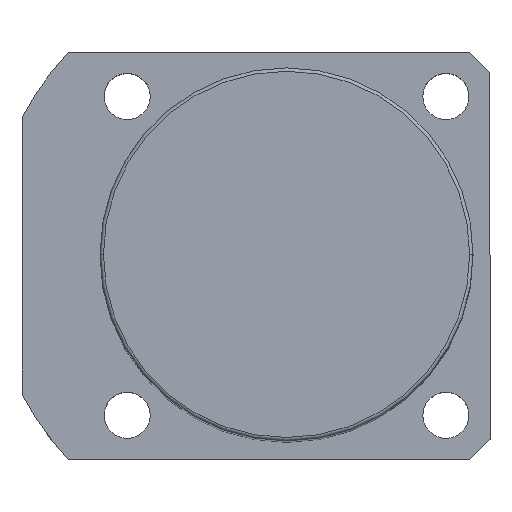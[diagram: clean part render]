
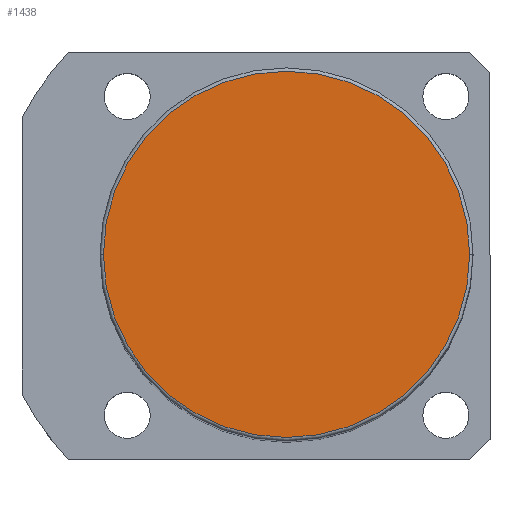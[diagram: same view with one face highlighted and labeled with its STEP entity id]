
A CAD part, top view. The second image highlights one B-rep face of the part: STEP entity #1438.
In plain terms, the highlighted planar face has unit normal (0, 0, 1).
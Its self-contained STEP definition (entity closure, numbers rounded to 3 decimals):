
#83 = AXIS2_PLACEMENT_3D ( 'NONE', #1164, #1929, #269 ) ;
#195 = EDGE_CURVE ( 'NONE', #1118, #1169, #661, .T. ) ;
#269 = DIRECTION ( 'NONE',  ( 1., 0., 0. ) ) ;
#293 = FACE_OUTER_BOUND ( 'NONE', #1752, .T. ) ;
#357 = CIRCLE ( 'NONE', #83, 27. ) ;
#551 = DIRECTION ( 'NONE',  ( 0., 0., 1. ) ) ;
#661 = CIRCLE ( 'NONE', #1336, 27. ) ;
#742 = CARTESIAN_POINT ( 'NONE',  ( 0., 0., 136. ) ) ;
#758 = EDGE_CURVE ( 'NONE', #1169, #1118, #357, .T. ) ;
#767 = AXIS2_PLACEMENT_3D ( 'NONE', #1160, #551, #1318 ) ;
#1118 = VERTEX_POINT ( 'NONE', #1222 ) ;
#1160 = CARTESIAN_POINT ( 'NONE',  ( 0., 0., 136. ) ) ;
#1164 = CARTESIAN_POINT ( 'NONE',  ( 0., 0., 136. ) ) ;
#1169 = VERTEX_POINT ( 'NONE', #1534 ) ;
#1174 = PLANE ( 'NONE',  #767 ) ;
#1203 = DIRECTION ( 'NONE',  ( 1., 0., 0. ) ) ;
#1222 = CARTESIAN_POINT ( 'NONE',  ( 27., 0., 136. ) ) ;
#1318 = DIRECTION ( 'NONE',  ( 1., 0., 0. ) ) ;
#1336 = AXIS2_PLACEMENT_3D ( 'NONE', #742, #1811, #1203 ) ;
#1438 = ADVANCED_FACE ( 'NONE', ( #293 ), #1174, .T. ) ;
#1480 = ORIENTED_EDGE ( 'NONE', *, *, #195, .T. ) ;
#1534 = CARTESIAN_POINT ( 'NONE',  ( -27., 0., 136. ) ) ;
#1752 = EDGE_LOOP ( 'NONE', ( #1480, #1888 ) ) ;
#1811 = DIRECTION ( 'NONE',  ( 0., 0., 1. ) ) ;
#1888 = ORIENTED_EDGE ( 'NONE', *, *, #758, .T. ) ;
#1929 = DIRECTION ( 'NONE',  ( 0., 0., 1. ) ) ;
